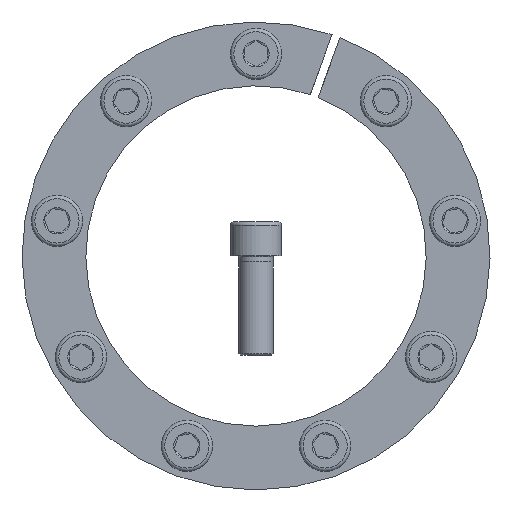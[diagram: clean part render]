
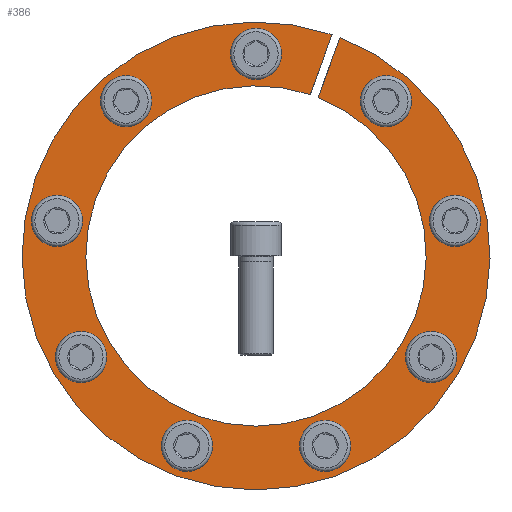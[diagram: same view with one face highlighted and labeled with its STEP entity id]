
A CAD part, front view. The second image highlights one B-rep face of the part: STEP entity #386.
In plain terms, the highlighted planar face has unit normal (0, -1, 0).
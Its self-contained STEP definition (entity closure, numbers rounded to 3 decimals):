
#386 = ADVANCED_FACE( '', ( #591, #592, #593, #594, #595, #596, #597, #598, #599, #600 ), #601, .F. );
#591 = FACE_BOUND( '', #765, .T. );
#592 = FACE_BOUND( '', #766, .T. );
#593 = FACE_BOUND( '', #767, .T. );
#594 = FACE_BOUND( '', #768, .T. );
#595 = FACE_OUTER_BOUND( '', #769, .T. );
#596 = FACE_BOUND( '', #770, .T. );
#597 = FACE_BOUND( '', #771, .T. );
#598 = FACE_BOUND( '', #772, .T. );
#599 = FACE_BOUND( '', #773, .T. );
#600 = FACE_BOUND( '', #774, .T. );
#601 = PLANE( '', #775 );
#765 = EDGE_LOOP( '', ( #988 ) );
#766 = EDGE_LOOP( '', ( #989 ) );
#767 = EDGE_LOOP( '', ( #990 ) );
#768 = EDGE_LOOP( '', ( #991 ) );
#769 = EDGE_LOOP( '', ( #992, #993, #994, #995 ) );
#770 = EDGE_LOOP( '', ( #996 ) );
#771 = EDGE_LOOP( '', ( #997 ) );
#772 = EDGE_LOOP( '', ( #998 ) );
#773 = EDGE_LOOP( '', ( #999 ) );
#774 = EDGE_LOOP( '', ( #1000 ) );
#775 = AXIS2_PLACEMENT_3D( '', #1001, #1002, #1003 );
#988 = ORIENTED_EDGE( '', *, *, #1336, .T. );
#989 = ORIENTED_EDGE( '', *, *, #1337, .T. );
#990 = ORIENTED_EDGE( '', *, *, #1338, .T. );
#991 = ORIENTED_EDGE( '', *, *, #1339, .T. );
#992 = ORIENTED_EDGE( '', *, *, #1334, .F. );
#993 = ORIENTED_EDGE( '', *, *, #1330, .F. );
#994 = ORIENTED_EDGE( '', *, *, #1340, .T. );
#995 = ORIENTED_EDGE( '', *, *, #1341, .F. );
#996 = ORIENTED_EDGE( '', *, *, #1342, .T. );
#997 = ORIENTED_EDGE( '', *, *, #1343, .T. );
#998 = ORIENTED_EDGE( '', *, *, #1344, .T. );
#999 = ORIENTED_EDGE( '', *, *, #1345, .T. );
#1000 = ORIENTED_EDGE( '', *, *, #1346, .T. );
#1001 = CARTESIAN_POINT( '', ( 0., 0., 82.5 ) );
#1002 = DIRECTION( '', ( 0., 1., 0. ) );
#1003 = DIRECTION( '', ( 0., 0., 1. ) );
#1330 = EDGE_CURVE( '', #1469, #1471, #1472, .T. );
#1334 = EDGE_CURVE( '', #1471, #1478, #1479, .T. );
#1336 = EDGE_CURVE( '', #1481, #1481, #1482, .T. );
#1337 = EDGE_CURVE( '', #1483, #1483, #1484, .T. );
#1338 = EDGE_CURVE( '', #1485, #1485, #1486, .T. );
#1339 = EDGE_CURVE( '', #1487, #1487, #1488, .T. );
#1340 = EDGE_CURVE( '', #1469, #1489, #1490, .T. );
#1341 = EDGE_CURVE( '', #1478, #1489, #1491, .T. );
#1342 = EDGE_CURVE( '', #1492, #1492, #1493, .T. );
#1343 = EDGE_CURVE( '', #1494, #1494, #1495, .T. );
#1344 = EDGE_CURVE( '', #1496, #1496, #1497, .T. );
#1345 = EDGE_CURVE( '', #1498, #1498, #1499, .T. );
#1346 = EDGE_CURVE( '', #1500, #1500, #1501, .T. );
#1469 = VERTEX_POINT( '', #1605 );
#1471 = VERTEX_POINT( '', #1608 );
#1472 = LINE( '', #1609, #1610 );
#1478 = VERTEX_POINT( '', #1618 );
#1479 = CIRCLE( '', #1619, 60. );
#1481 = VERTEX_POINT( '', #1622 );
#1482 = CIRCLE( '', #1623, 6. );
#1483 = VERTEX_POINT( '', #1624 );
#1484 = CIRCLE( '', #1625, 6. );
#1485 = VERTEX_POINT( '', #1626 );
#1486 = CIRCLE( '', #1627, 6. );
#1487 = VERTEX_POINT( '', #1628 );
#1488 = CIRCLE( '', #1629, 6. );
#1489 = VERTEX_POINT( '', #1630 );
#1490 = CIRCLE( '', #1631, 82.5 );
#1491 = LINE( '', #1632, #1633 );
#1492 = VERTEX_POINT( '', #1634 );
#1493 = CIRCLE( '', #1635, 6. );
#1494 = VERTEX_POINT( '', #1636 );
#1495 = CIRCLE( '', #1637, 6. );
#1496 = VERTEX_POINT( '', #1638 );
#1497 = CIRCLE( '', #1639, 6. );
#1498 = VERTEX_POINT( '', #1640 );
#1499 = CIRCLE( '', #1641, 6. );
#1500 = VERTEX_POINT( '', #1642 );
#1501 = CIRCLE( '', #1643, 6. );
#1605 = CARTESIAN_POINT( '', ( 26.802, 0., 78.025 ) );
#1608 = CARTESIAN_POINT( '', ( 19.105, 0., 56.877 ) );
#1609 = CARTESIAN_POINT( '', ( 26.807, 0., 78.038 ) );
#1610 = VECTOR( '', #1736, 1000. );
#1618 = CARTESIAN_POINT( '', ( 21.924, 0., 55.851 ) );
#1619 = AXIS2_PLACEMENT_3D( '', #1742, #1743, #1744 );
#1622 = CARTESIAN_POINT( '', ( -69.126, 0., 18.281 ) );
#1623 = AXIS2_PLACEMENT_3D( '', #1746, #1747, #1748 );
#1624 = CARTESIAN_POINT( '', ( -30.007, 0., -64.901 ) );
#1625 = AXIS2_PLACEMENT_3D( '', #1749, #1750, #1751 );
#1626 = CARTESIAN_POINT( '', ( 58.704, 0., -40.821 ) );
#1627 = AXIS2_PLACEMENT_3D( '', #1752, #1753, #1754 );
#1628 = CARTESIAN_POINT( '', ( 50.395, 0., 50.724 ) );
#1629 = AXIS2_PLACEMENT_3D( '', #1755, #1756, #1757 );
#1630 = CARTESIAN_POINT( '', ( 29.622, 0., 76.999 ) );
#1631 = AXIS2_PLACEMENT_3D( '', #1758, #1759, #1760 );
#1632 = CARTESIAN_POINT( '', ( 21.924, 0., 55.851 ) );
#1633 = VECTOR( '', #1761, 1000. );
#1634 = CARTESIAN_POINT( '', ( 6., 0., 71.25 ) );
#1635 = AXIS2_PLACEMENT_3D( '', #1762, #1763, #1764 );
#1636 = CARTESIAN_POINT( '', ( 71.209, 0., 6.464 ) );
#1637 = AXIS2_PLACEMENT_3D( '', #1765, #1766, #1767 );
#1638 = CARTESIAN_POINT( '', ( 18.731, 0., -69.005 ) );
#1639 = AXIS2_PLACEMENT_3D( '', #1768, #1769, #1770 );
#1640 = CARTESIAN_POINT( '', ( -64.704, 0., -30.429 ) );
#1641 = AXIS2_PLACEMENT_3D( '', #1771, #1772, #1773 );
#1642 = CARTESIAN_POINT( '', ( -41.202, 0., 58.437 ) );
#1643 = AXIS2_PLACEMENT_3D( '', #1774, #1775, #1776 );
#1736 = DIRECTION( '', ( -0.342, 0., -0.94 ) );
#1742 = CARTESIAN_POINT( '', ( 0., 0., 0. ) );
#1743 = DIRECTION( '', ( 0., -1., 0. ) );
#1744 = DIRECTION( '', ( 0., 0., -1. ) );
#1746 = CARTESIAN_POINT( '', ( -70.168, 0., 12.372 ) );
#1747 = DIRECTION( '', ( 0., 1., 0. ) );
#1748 = DIRECTION( '', ( 0.174, 0., 0.985 ) );
#1749 = CARTESIAN_POINT( '', ( -24.369, 0., -66.953 ) );
#1750 = DIRECTION( '', ( 0., 1., 0. ) );
#1751 = DIRECTION( '', ( -0.94, 0., 0.342 ) );
#1752 = CARTESIAN_POINT( '', ( 61.704, 0., -35.625 ) );
#1753 = DIRECTION( '', ( 0., 1., 0. ) );
#1754 = DIRECTION( '', ( -0.5, 0., -0.866 ) );
#1755 = CARTESIAN_POINT( '', ( 45.799, 0., 54.581 ) );
#1756 = DIRECTION( '', ( 0., 1., 0. ) );
#1757 = DIRECTION( '', ( 0.766, 0., -0.643 ) );
#1758 = CARTESIAN_POINT( '', ( 0., 0., 0. ) );
#1759 = DIRECTION( '', ( 0., -1., 0. ) );
#1760 = DIRECTION( '', ( 0., 0., -1. ) );
#1761 = DIRECTION( '', ( 0.342, 0., 0.94 ) );
#1762 = CARTESIAN_POINT( '', ( 0., 0., 71.25 ) );
#1763 = DIRECTION( '', ( 0., 1., 0. ) );
#1764 = DIRECTION( '', ( 1., 0., 0. ) );
#1765 = CARTESIAN_POINT( '', ( 70.168, 0., 12.372 ) );
#1766 = DIRECTION( '', ( 0., 1., 0. ) );
#1767 = DIRECTION( '', ( 0.174, 0., -0.985 ) );
#1768 = CARTESIAN_POINT( '', ( 24.369, 0., -66.953 ) );
#1769 = DIRECTION( '', ( 0., 1., 0. ) );
#1770 = DIRECTION( '', ( -0.94, 0., -0.342 ) );
#1771 = CARTESIAN_POINT( '', ( -61.704, 0., -35.625 ) );
#1772 = DIRECTION( '', ( 0., 1., 0. ) );
#1773 = DIRECTION( '', ( -0.5, 0., 0.866 ) );
#1774 = CARTESIAN_POINT( '', ( -45.799, 0., 54.581 ) );
#1775 = DIRECTION( '', ( 0., 1., 0. ) );
#1776 = DIRECTION( '', ( 0.766, 0., 0.643 ) );
